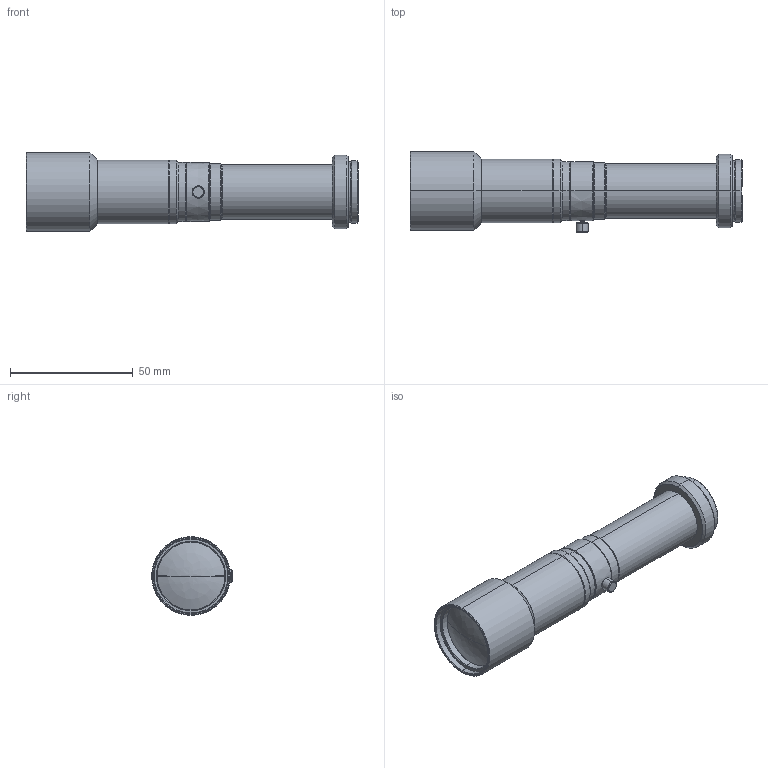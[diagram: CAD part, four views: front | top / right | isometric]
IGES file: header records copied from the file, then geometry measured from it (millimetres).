
Start section: SolidWorks IGES file using analytic representation for surfaces
Bounding box: 135 x 32.8 x 32 mm (x, y, z)
Surface area: 17291.7 mm2 (no closed solid volume)
Topology: 0 solids, 0 shells, 139 faces, 1774 edges, 1772 vertices
Faces by surface type: revolution 122, bspline 17
